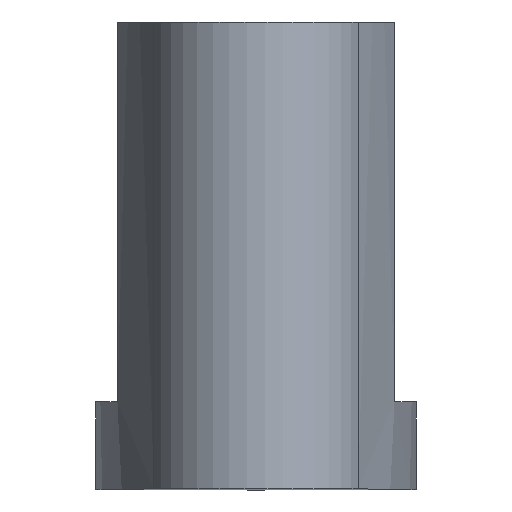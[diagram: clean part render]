
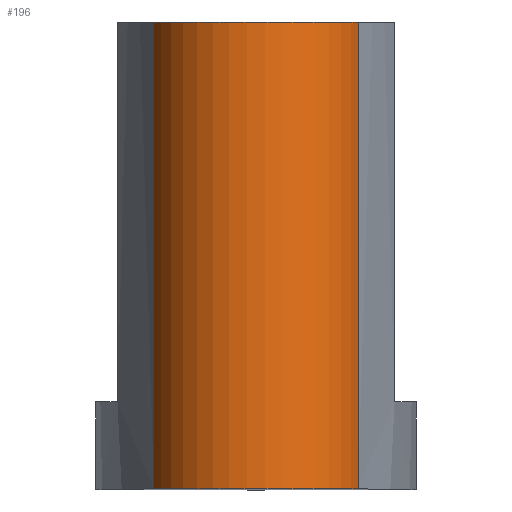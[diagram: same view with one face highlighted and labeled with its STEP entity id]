
A CAD part, top view. The second image highlights one B-rep face of the part: STEP entity #196.
In plain terms, the highlighted cylindrical face has radius 7.4 mm (diameter 14.8 mm), a partial arc.
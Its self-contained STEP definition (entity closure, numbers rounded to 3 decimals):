
#92 = VERTEX_POINT( '', #236 );
#94 = VERTEX_POINT( '', #238 );
#130 = EDGE_CURVE( '', #136, #134, #279, .T. );
#134 = VERTEX_POINT( '', #283 );
#136 = VERTEX_POINT( '', #285 );
#194 = EDGE_CURVE( '', #94, #92, #350, .T. );
#196 = ADVANCED_FACE( '', ( #352 ), #353, .T. );
#210 = EDGE_CURVE( '', #136, #94, #368, .T. );
#212 = EDGE_CURVE( '', #134, #92, #370, .T. );
#236 = CARTESIAN_POINT( '', ( 7., 0., 1. ) );
#238 = CARTESIAN_POINT( '', ( 7., -32., 1. ) );
#279 = LINE( '', #440, #441 );
#283 = CARTESIAN_POINT( '', ( -7., 0., 1. ) );
#285 = CARTESIAN_POINT( '', ( -7., -32., 1. ) );
#350 = LINE( '', #534, #535 );
#352 = FACE_OUTER_BOUND( '', #537, .T. );
#353 = CYLINDRICAL_SURFACE( '', #538, 7.4 );
#368 = CIRCLE( '', #559, 7.4 );
#370 = CIRCLE( '', #562, 7.4 );
#440 = CARTESIAN_POINT( '', ( -7., -32., 1. ) );
#441 = VECTOR( '', #625, 1. );
#534 = CARTESIAN_POINT( '', ( 7., -32., 1. ) );
#535 = VECTOR( '', #707, 1. );
#537 = EDGE_LOOP( '', ( #709, #710, #711, #712 ) );
#538 = AXIS2_PLACEMENT_3D( '', #713, #714, #715 );
#559 = AXIS2_PLACEMENT_3D( '', #729, #730, #731 );
#562 = AXIS2_PLACEMENT_3D( '', #732, #733, #734 );
#625 = DIRECTION( '', ( 0., 1., 0. ) );
#707 = DIRECTION( '', ( 0., 1., 0. ) );
#709 = ORIENTED_EDGE( '', *, *, #130, .F. );
#710 = ORIENTED_EDGE( '', *, *, #210, .T. );
#711 = ORIENTED_EDGE( '', *, *, #194, .T. );
#712 = ORIENTED_EDGE( '', *, *, #212, .F. );
#713 = CARTESIAN_POINT( '', ( 0., -32., -1.4 ) );
#714 = DIRECTION( '', ( 0., -1., 0. ) );
#715 = DIRECTION( '', ( -0.946, 0., 0.324 ) );
#729 = CARTESIAN_POINT( '', ( 0., -32., -1.4 ) );
#730 = DIRECTION( '', ( 0., 1., 0. ) );
#731 = DIRECTION( '', ( -0.946, 0., 0.324 ) );
#732 = CARTESIAN_POINT( '', ( 0., 0., -1.4 ) );
#733 = DIRECTION( '', ( 0., 1., 0. ) );
#734 = DIRECTION( '', ( -0.946, 0., 0.324 ) );
